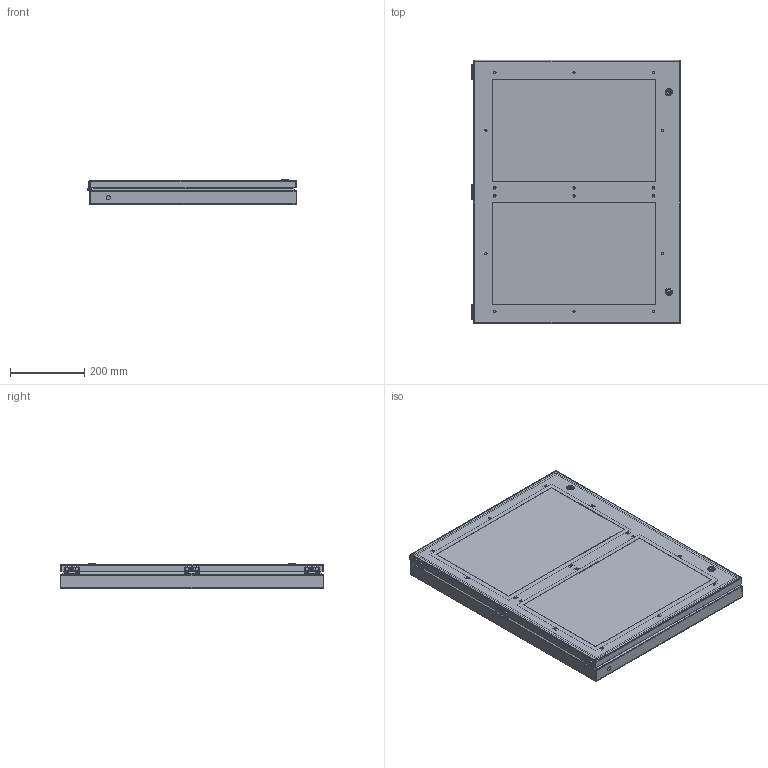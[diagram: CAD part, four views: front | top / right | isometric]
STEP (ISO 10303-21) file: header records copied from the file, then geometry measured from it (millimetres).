
FILE_DESCRIPTION((''),'2;1');
FILE_NAME('MODEL-106_ASM','2021-05-28T15:26:03',('JoshI'),('SAGINAW CONTROL & ENGINEERING'),'CREO PARAMETRIC BY PTC INC, 2017260','CREO PARAMETRIC BY PTC INC, 2017260','');
FILE_SCHEMA(('AUTOMOTIVE_DESIGN { 1 0 10303 214 1 1 1 1 }'));
Length unit declared in the file: inch
Products named in the file (24): MODEL-106-BDY; 112643-BOX-LEAF; 112643-BOX-LEAF-STUD; 112643-BOX_ASM; 112643-DOOR-LEAF; 112643-DOOR-LEAF-STUD; 112643-DOOR_ASM; 112643-PIN; 112643_ASM; 113152; MODEL-106-DR; 112987_SHAFT; 112987_INSERT; 112984; 112987_SCREW; 112987_NUT; 112987_ASM; MODEL-106-GSKT-DR; 113591; MODEL-106-LEX; 118622; 117899; 118662; MODEL-106_ASM
Assembly tree (78 placements, depth 4):
  MODEL-106_ASM
    MODEL-106-BDY
    112643_ASM  x3
      112643-BOX_ASM
        112643-BOX-LEAF
        112643-BOX-LEAF-STUD
      112643-DOOR_ASM
        112643-DOOR-LEAF
        112643-DOOR-LEAF-STUD
      112643-PIN
    113152  x6
    MODEL-106-DR
    112987_ASM  x2
      112987_SHAFT
      112987_INSERT
      112984
      112987_SCREW
      112987_NUT
    MODEL-106-GSKT-DR
    113591  x2
    MODEL-106-LEX  x2
    118622  x16
    117899  x16
    118662  x16
Bounding box: 564.4 x 711.2 x 69.4 mm (x, y, z)
Volume: 2426608.7 mm3; surface area: 1550390.7 mm2
Topology: 86 solids, 89 shells, 5013 faces, 12786 edges, 7950 vertices
Faces by surface type: plane 1740, cylinder 1542, bspline 1232, cone 257, torus 186, sphere 56
Entity records: 103332 total; most frequent: CARTESIAN_POINT 54535, ORIENTED_EDGE 6870, DIRECTION 6017, EDGE_CURVE 3435, PRESENTATION_STYLE_ASSIGNMENT 3325, STYLED_ITEM 3325, CURVE_STYLE 2712, AXIS2_PLACEMENT_3D 2221
